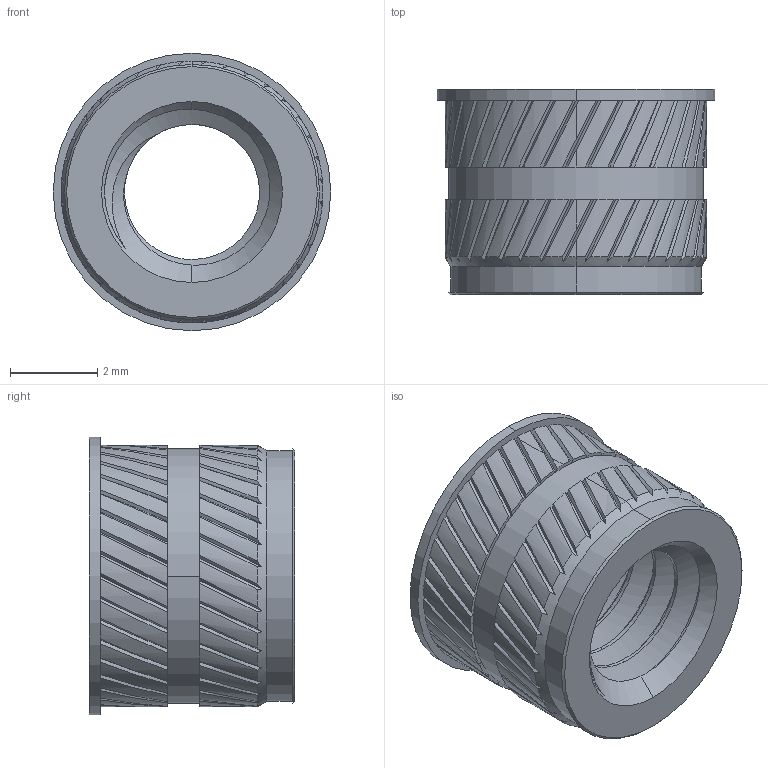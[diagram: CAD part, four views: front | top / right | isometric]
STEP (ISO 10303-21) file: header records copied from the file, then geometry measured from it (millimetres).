
FILE_DESCRIPTION (( 'STEP AP203' ), '1' );
FILE_NAME ('94180A351.STEP', '2018-04-19T12:46:04', ( '' ), ( '' ), 'SwSTEP 2.0', 'SolidWorks 2014', '' );
FILE_SCHEMA (( 'CONFIG_CONTROL_DESIGN' ));
Length unit declared in the file: millimetre
Products named in the file (1): 94180A351
Bounding box: 6.35 x 4.7 x 6.35 mm (x, y, z)
Volume: 82.1 mm3; surface area: 223.3 mm2
Topology: 1 solids, 1 shells, 255 faces, 743 edges, 494 vertices
Faces by surface type: bspline 147, cylinder 94, cone 8, plane 6
Entity records: 11171 total; most frequent: CARTESIAN_POINT 6090, ORIENTED_EDGE 1486, EDGE_CURVE 743, DIRECTION 659, VERTEX_POINT 494, AXIS2_PLACEMENT_3D 279, EDGE_LOOP 261, ADVANCED_FACE 255
